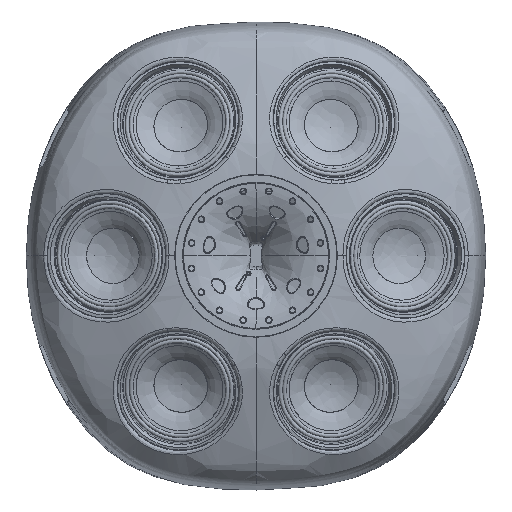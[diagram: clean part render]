
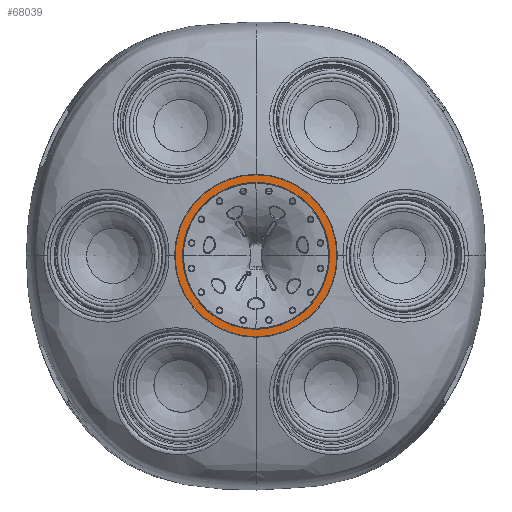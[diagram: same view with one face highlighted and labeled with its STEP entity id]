
A CAD part, top view. The second image highlights one B-rep face of the part: STEP entity #68039.
In plain terms, the highlighted planar face has unit normal (0, 0, 1).
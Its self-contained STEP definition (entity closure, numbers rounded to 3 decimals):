
#2455=FACE_BOUND('',#23747,.T.);
#4312=CIRCLE('',#74150,132.199);
#4540=CIRCLE('',#74571,120.152);
#16073=PLANE('',#74570);
#19521=FACE_OUTER_BOUND('',#23746,.T.);
#23746=EDGE_LOOP('',(#60255));
#23747=EDGE_LOOP('',(#60256));
#31714=VERTEX_POINT('',#170351);
#32122=VERTEX_POINT('',#213793);
#41003=EDGE_CURVE('',#31714,#31714,#4312,.T.);
#41681=EDGE_CURVE('',#32122,#32122,#4540,.T.);
#60255=ORIENTED_EDGE('',*,*,#41003,.F.);
#60256=ORIENTED_EDGE('',*,*,#41681,.T.);
#68039=ADVANCED_FACE('',(#19521,#2455),#16073,.F.);
#74150=AXIS2_PLACEMENT_3D('',#170352,#89616,#89617);
#74570=AXIS2_PLACEMENT_3D('',#213792,#90510,#90511);
#74571=AXIS2_PLACEMENT_3D('',#213794,#90512,#90513);
#89616=DIRECTION('center_axis',(0.,0.,-1.));
#89617=DIRECTION('ref_axis',(1.,0.,0.));
#90510=DIRECTION('center_axis',(0.,0.,-1.));
#90511=DIRECTION('ref_axis',(-1.,0.,0.));
#90512=DIRECTION('center_axis',(0.,0.,-1.));
#90513=DIRECTION('ref_axis',(1.,0.,0.));
#170351=CARTESIAN_POINT('',(-132.199,0.,211.471));
#170352=CARTESIAN_POINT('Origin',(0.,0.,211.471));
#213792=CARTESIAN_POINT('Origin',(-120.152,0.,
211.471));
#213793=CARTESIAN_POINT('',(120.152,0.,211.471));
#213794=CARTESIAN_POINT('Origin',(0.,0.,211.471));
